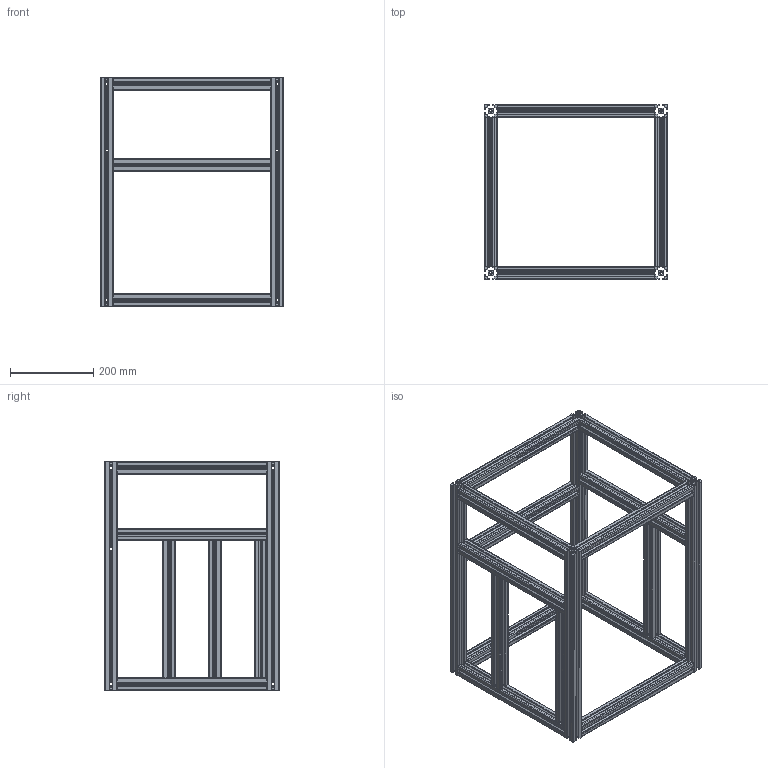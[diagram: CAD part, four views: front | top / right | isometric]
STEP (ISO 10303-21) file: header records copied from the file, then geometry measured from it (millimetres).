
FILE_DESCRIPTION(('FreeCAD Model'),'2;1');
FILE_NAME('Open CASCADE Shape Model','2021-11-07T21:25:57',('Author'),( ''),'Open CASCADE STEP processor 7.4','FreeCAD','Unknown');
FILE_SCHEMA(('AUTOMOTIVE_DESIGN { 1 0 10303 214 1 1 1 1 }'));
Length unit declared in the file: millimetre
Products named in the file (19): 250-frame; 380mm-tap; 380mm-tap001; 380mm-tap002; 360mm-tap; 360mm-tap001; 380mm-tap003; 330mm-tap; 330mm-tap001; 380mm-tap004; 550mm-drint--tap-front-vetical; 550mm-drint--tap-front-vetical001; 550mm-drill-tap-back-vertical; 550mm-drill-tap-back-vertical001; 330-drill-vertical; 360mm-drill-tap-left-horizontal; 360mm-drill-tap-right-horizontal; 360mm-drill-tap-left-horizontal001; 360mm-drill-tap-right-horizontal001
Assembly tree (18 placements, depth 2):
  250-frame
    380mm-tap
    380mm-tap001
    380mm-tap002
    360mm-tap
    360mm-tap001
    380mm-tap003
    330mm-tap
    330mm-tap001
    380mm-tap004
    550mm-drint--tap-front-vetical
    550mm-drint--tap-front-vetical001
    550mm-drill-tap-back-vertical
    550mm-drill-tap-back-vertical001
    330-drill-vertical
    360mm-drill-tap-left-horizontal
    360mm-drill-tap-right-horizontal
    360mm-drill-tap-left-horizontal001
    360mm-drill-tap-right-horizontal001
Bounding box: 440 x 420 x 550 mm (x, y, z)
Volume: 2779266.7 mm3; surface area: 1870802.2 mm2
Topology: 18 solids, 18 shells, 2124 faces, 6546 edges, 4368 vertices
Faces by surface type: plane 1420, cylinder 704
Full cylindrical faces by diameter (mm): 6.8 x39, 7 x45
Entity records: 193316 total; most frequent: CARTESIAN_POINT 66983, DIRECTION 22917, LINE 14568, VECTOR 14568, ORIENTED_EDGE 13092, PCURVE 13092, DEFINITIONAL_REPRESENTATION 13092, EDGE_CURVE 6546
